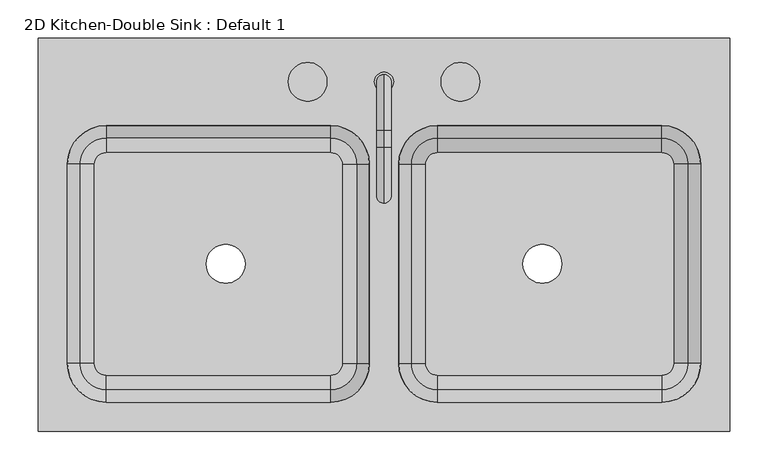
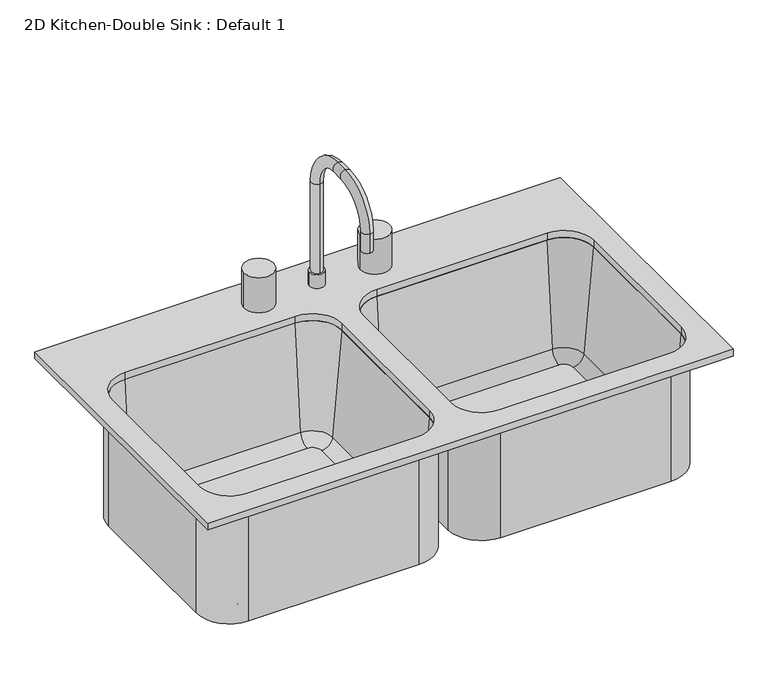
"""IFC4 building model written with IfcOpenShell, lengths in millimetres: flow terminal geometry, 2D Kitchen-Double Sink : Default 1."""

from ifc_helpers import new_model, si_unit, point, frame, frame_2d, origin, place, context, project, spatial, polyline, circle_curve, ellipse_curve, trimmed, segment, composite_curve, outline, extrude, source, transform, mapped, element, save
from ifc_brep_helpers import plane_surface, cylinder_surface, revolved_surface, advanced_brep


def flow_terminal_2d_kitchen_double_sink_default_1_ef919826(model_context):
    return source(origin(), model_context, "Body", "SolidModel", [
        advanced_brep(
        [(379.1142342, 109.9088193, 555.625), (85.5392406, 109.9088193, 555.625), (70.2508224, 94.6204011, 555.625), (70.2508224, -166.1295989, 555.625), (85.5392406, -181.4180171, 555.625), (379.1142406, -181.4180171, 555.625), (394.4026588, -166.1295989, 555.625), (394.4026588, 94.6204011, 555.625), (197.4017406, -35.7545989, 555.625), (248.2017406, -35.7545989, 555.625), (28.3892406, 94.6204011, 546.1), (85.5392406, 151.7704011, 546.1), (379.1142406, 151.7704011, 546.1), (436.2642406, 94.6204011, 546.1), (436.2642406, -166.1295989, 546.1), (379.1142406, -223.2795989, 546.1), (85.5392406, -223.2795989, 546.1), (28.3892406, -166.1295989, 546.1), (197.4017406, -35.7545989, 546.1), (248.2017406, -35.7545989, 546.1), (34.7392406, 94.6204011, 762.0), (85.5392406, 145.4204011, 762.0), (85.5392406, 151.7704011, 762.0), (28.3892406, 94.6204011, 762.0), (51.2733134, 94.6204011, 573.0146831), (85.5392406, 128.8863283, 573.0146831), (28.3892406, -166.1295989, 762.0), (34.7392406, -166.1295989, 762.0), (51.2733134, -166.1295989, 573.0146831), (85.5392406, -223.2795989, 762.0), (85.5392406, -216.9295989, 762.0), (85.5392406, -200.3955261, 573.0146831), (379.1142406, -223.2795989, 762.0), (379.1142406, -216.9295989, 762.0), (379.1142406, -200.3955261, 573.0146831), (436.2642406, -166.1295989, 762.0), (429.9142406, -166.1295989, 762.0), (413.3801678, -166.1295989, 573.0146831), (436.2642406, 94.6204011, 762.0), (429.9142406, 94.6204011, 762.0), (413.3801678, 94.6204011, 573.0146831), (379.1142406, 151.7704011, 762.0), (379.1142406, 145.4204011, 762.0), (379.1142406, 128.8863283, 573.0146831)],
        [
            (0, 1),
            (1, 2, circle_curve(frame((85.5392406, 94.6204011, 555.625), z_axis=(0.0, 0.0, 1.0), x_axis=(0.0, 1.0, 0.0)), 15.2884182)),
            (2, 3),
            (3, 4, circle_curve(frame((85.5392406, -166.1295989, 555.625), z_axis=(0.0, 0.0, 1.0), x_axis=(-1.0, 0.0, 0.0)), 15.2884182)),
            (4, 5),
            (5, 6, circle_curve(frame((379.1142406, -166.1295989, 555.625), z_axis=(0.0, 0.0, 1.0), x_axis=(0.0, -1.0, 0.0)), 15.2884182)),
            (6, 7),
            (7, 0, circle_curve(frame((379.1142406, 94.6204011, 555.625), z_axis=(0.0, 0.0, 1.0), x_axis=(1.0, 0.0, 0.0)), 15.2884182)),
            (8, 9, circle_curve(frame((222.8017406, -35.7545989, 555.625), z_axis=(0.0, 0.0, -1.0), x_axis=(1.0, 0.0, 0.0)), 25.4)),
            (9, 8, circle_curve(frame((222.8017406, -35.7545989, 555.625), z_axis=(0.0, 0.0, -1.0), x_axis=(1.0, 0.0, 0.0)), 25.4)),
            (10, 11, circle_curve(frame((85.5392406, 94.6204011, 546.1), z_axis=(0.0, 0.0, -1.0), x_axis=(0.0, 1.0, 0.0)), 57.15)),
            (11, 12),
            (12, 13, circle_curve(frame((379.1142406, 94.6204011, 546.1), z_axis=(0.0, 0.0, -1.0), x_axis=(1.0, 0.0, 0.0)), 57.15)),
            (13, 14),
            (14, 15, circle_curve(frame((379.1142406, -166.1295989, 546.1), z_axis=(0.0, 0.0, -1.0), x_axis=(0.0, -1.0, 0.0)), 57.15)),
            (15, 16),
            (16, 17, circle_curve(frame((85.5392406, -166.1295989, 546.1), z_axis=(0.0, 0.0, -1.0), x_axis=(-1.0, 0.0, 0.0)), 57.15)),
            (17, 10),
            (18, 19, circle_curve(frame((222.8017406, -35.7545989, 546.1), z_axis=(0.0, 0.0, 1.0), x_axis=(1.0, 0.0, 0.0)), 25.4)),
            (19, 18, circle_curve(frame((222.8017406, -35.7545989, 546.1), z_axis=(0.0, 0.0, 1.0), x_axis=(1.0, 0.0, 0.0)), 25.4)),
            (8, 18),
            (19, 9),
            (20, 21, circle_curve(frame((85.5392406, 94.6204011, 762.0), z_axis=(0.0, 0.0, -1.0), x_axis=(0.0, 1.0, 0.0)), 50.8)),
            (21, 22),
            (22, 23, circle_curve(frame((85.5392406, 94.6204011, 762.0), z_axis=(0.0, 0.0, 1.0), x_axis=(0.0, 1.0, 0.0)), 57.15)),
            (23, 20),
            (20, 24),
            (24, 25, circle_curve(frame((85.5392406, 94.6204011, 573.0146831), z_axis=(0.0, 0.0, -1.0), x_axis=(0.0, 1.0, 0.0)), 34.2659272)),
            (25, 21),
            (24, 2, circle_curve(frame((70.2508224, 94.6204011, 574.675), z_axis=(0.0, -1.0, 0.0), x_axis=(1.0, 0.0, 0.0)), 19.05)),
            (1, 25, circle_curve(frame((85.5392406, 109.9088193, 574.675), z_axis=(1.0, 0.0, 0.0), x_axis=(0.0, -1.0, 0.0)), 19.05)),
            (22, 11),
            (10, 23),
            (23, 26),
            (26, 27),
            (27, 20),
            (27, 28),
            (28, 24),
            (28, 3, circle_curve(frame((70.2508224, -166.1295989, 574.675), z_axis=(0.0, -1.0, 0.0), x_axis=(1.0, 0.0, 0.0)), 19.05)),
            (17, 26),
            (26, 29, circle_curve(frame((85.5392406, -166.1295989, 762.0), z_axis=(0.0, 0.0, 1.0), x_axis=(-1.0, 0.0, 0.0)), 57.15)),
            (29, 30),
            (30, 27, circle_curve(frame((85.5392406, -166.1295989, 762.0), z_axis=(0.0, 0.0, -1.0), x_axis=(-1.0, 0.0, 0.0)), 50.8)),
            (30, 31),
            (31, 28, circle_curve(frame((85.5392406, -166.1295989, 573.0146831), z_axis=(0.0, 0.0, -1.0), x_axis=(-1.0, 0.0, 0.0)), 34.2659272)),
            (31, 4, circle_curve(frame((85.5392406, -181.4180171, 574.675), z_axis=(1.0, 0.0, 0.0), x_axis=(0.0, 1.0, 0.0)), 19.05)),
            (16, 29),
            (29, 32),
            (32, 33),
            (33, 30),
            (33, 34),
            (34, 31),
            (34, 5, circle_curve(frame((379.1142406, -181.4180171, 574.675), z_axis=(1.0, 0.0, 0.0), x_axis=(0.0, 1.0, 0.0)), 19.05)),
            (15, 32),
            (32, 35, circle_curve(frame((379.1142406, -166.1295989, 762.0), z_axis=(0.0, 0.0, 1.0), x_axis=(0.0, -1.0, 0.0)), 57.15)),
            (35, 36),
            (36, 33, circle_curve(frame((379.1142406, -166.1295989, 762.0), z_axis=(0.0, 0.0, -1.0), x_axis=(0.0, -1.0, 0.0)), 50.8)),
            (36, 37),
            (37, 34, circle_curve(frame((379.1142406, -166.1295989, 573.0146831), z_axis=(0.0, 0.0, -1.0), x_axis=(0.0, -1.0, 0.0)), 34.2659272)),
            (37, 6, circle_curve(frame((394.4026588, -166.1295989, 574.675), z_axis=(0.0, 1.0, 0.0), x_axis=(-1.0, 0.0, 0.0)), 19.05)),
            (14, 35),
            (35, 38),
            (38, 39),
            (39, 36),
            (39, 40),
            (40, 37),
            (40, 7, circle_curve(frame((394.4026588, 94.6204011, 574.675), z_axis=(0.0, 1.0, 0.0), x_axis=(-1.0, 0.0, 0.0)), 19.05)),
            (13, 38),
            (38, 41, circle_curve(frame((379.1142406, 94.6204011, 762.0), z_axis=(0.0, 0.0, 1.0), x_axis=(1.0, 0.0, 0.0)), 57.15)),
            (41, 42),
            (42, 39, circle_curve(frame((379.1142406, 94.6204011, 762.0), z_axis=(0.0, 0.0, -1.0), x_axis=(1.0, 0.0, 0.0)), 50.8)),
            (42, 43),
            (43, 40, circle_curve(frame((379.1142406, 94.6204011, 573.0146831), z_axis=(0.0, 0.0, -1.0), x_axis=(1.0, 0.0, 0.0)), 34.2659272)),
            (43, 0, circle_curve(frame((379.1142406, 109.9088193, 574.675), z_axis=(-1.0, 0.0, 0.0), x_axis=(0.0, -1.0, 0.0)), 19.05)),
            (12, 41),
            (21, 42),
            (41, 22),
            (25, 43),
        ],
        [
            plane_surface(frame((85.5392406, 109.9088193, 555.625), z_axis=(0.0, 0.0, 1.0), x_axis=(-1.0, 0.0, 0.0))),
            plane_surface(frame((85.5392406, 109.9088193, 546.1), z_axis=(0.0, 0.0, -1.0), x_axis=(1.0, 0.0, 0.0))),
            revolved_surface(polyline([(248.2017406, -35.7545989, 546.1), (248.2017406, -35.7545989, 555.625)]), (222.8017406, -35.7545989, 0.0), (0.0, 0.0, -1.0)),
            plane_surface(frame((85.5392406, 94.6204011, 762.0), z_axis=(0.0, 0.0, 1.0), x_axis=(0.0, 1.0, 0.0))),
            revolved_surface(polyline([(85.5392406, 145.4204011, 762.0), (85.5392406, 128.8863283, 573.0146831)]), (85.5392406, 94.6204011, 0.0), (0.0, 0.0, 1.0)),
            revolved_surface(trimmed(ellipse_curve(frame((85.5392406, 109.9088193, 574.675), z_axis=(-1.0, 0.0, 0.0), x_axis=(0.0, -1.0, 0.0)), 19.05, 19.05), [point((85.5392406, 128.8863283, 573.0146831))], [point((85.5392406, 109.9088193, 555.625))], True, "CARTESIAN"), (85.5392406, 94.6204011, 0.0), (0.0, 0.0, 1.0)),
            cylinder_surface(frame((85.5392406, 94.6204011, 0.0), z_axis=(0.0, 0.0, 1.0), x_axis=(0.0, 1.0, 0.0)), 57.15),
            plane_surface(frame((28.3892406, 94.6204011, 762.0), z_axis=(0.0, 0.0, 1.0), x_axis=(0.0, -1.0, 0.0))),
            plane_surface(frame((34.7392406, 94.6204011, 762.0), z_axis=(0.996194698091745, 0.0, 0.08715574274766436), x_axis=(0.0, -1.0, 0.0))),
            revolved_surface(polyline([(89.3008224, -166.12959890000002, 574.675), (89.3008224, 94.6204011, 574.675)]), (70.2508224, 94.6204011, 574.675), (0.0, -1.0, 0.0)),
            plane_surface(frame((28.3892406, 94.6204011, 546.1), z_axis=(-1.0, 0.0, 0.0), x_axis=(0.0, -1.0, 0.0))),
            plane_surface(frame((85.5392406, -166.1295989, 762.0), z_axis=(0.0, 0.0, 1.0), x_axis=(-1.0, 0.0, 0.0))),
            revolved_surface(polyline([(34.7392406, -166.1295989, 762.0), (51.2733134, -166.1295989, 573.0146831)]), (85.5392406, -166.1295989, 0.0), (0.0, 0.0, 1.0)),
            revolved_surface(trimmed(ellipse_curve(frame((70.2508224, -166.1295989, 574.675), z_axis=(0.0, -1.0, 0.0), x_axis=(1.0, 0.0, 0.0)), 19.05, 19.05), [point((51.2733134, -166.1295989, 573.0146831))], [point((70.2508224, -166.1295989, 555.625))], True, "CARTESIAN"), (85.5392406, -166.1295989, 0.0), (0.0, 0.0, 1.0)),
            cylinder_surface(frame((85.5392406, -166.1295989, 0.0), z_axis=(0.0, 0.0, 1.0), x_axis=(-1.0, 0.0, 0.0)), 57.15),
            plane_surface(frame((85.5392406, -223.2795989, 762.0), z_axis=(0.0, 0.0, 1.0), x_axis=(1.0, 0.0, 0.0))),
            plane_surface(frame((85.5392406, -216.9295989, 762.0), z_axis=(0.0, 0.996194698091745, 0.08715574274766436), x_axis=(1.0, 0.0, 0.0))),
            revolved_surface(polyline([(379.1142406, -162.36801709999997, 574.675), (85.5392406, -162.36801709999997, 574.675)]), (85.5392406, -181.4180171, 574.675), (1.0, 0.0, 0.0)),
            plane_surface(frame((85.5392406, -223.2795989, 546.1), z_axis=(0.0, -1.0, 0.0), x_axis=(1.0, 0.0, 0.0))),
            plane_surface(frame((379.1142406, -166.1295989, 762.0), z_axis=(0.0, 0.0, 1.0), x_axis=(0.0, -1.0, 0.0))),
            revolved_surface(polyline([(379.1142406, -216.9295989, 762.0), (379.1142406, -200.3955261, 573.0146831)]), (379.1142406, -166.1295989, 0.0), (0.0, 0.0, 1.0)),
            revolved_surface(trimmed(ellipse_curve(frame((379.1142406, -181.4180171, 574.675), z_axis=(1.0, 0.0, 0.0), x_axis=(0.0, 1.0, 0.0)), 19.05, 19.05), [point((379.1142406, -200.3955261, 573.0146831))], [point((379.1142406, -181.4180171, 555.625))], True, "CARTESIAN"), (379.1142406, -166.1295989, 0.0), (0.0, 0.0, 1.0)),
            cylinder_surface(frame((379.1142406, -166.1295989, 0.0), z_axis=(0.0, 0.0, 1.0), x_axis=(0.0, -1.0, 0.0)), 57.15),
            plane_surface(frame((436.2642406, -166.1295989, 762.0), z_axis=(0.0, 0.0, 1.0), x_axis=(0.0, 1.0, 0.0))),
            plane_surface(frame((429.9142406, -166.1295989, 762.0), z_axis=(-0.996194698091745, 0.0, 0.08715574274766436), x_axis=(0.0, 1.0, 0.0))),
            revolved_surface(polyline([(375.3526588, 94.62040110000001, 574.675), (375.3526588, -166.1295989, 574.675)]), (394.4026588, -166.1295989, 574.675), (0.0, 1.0, 0.0)),
            plane_surface(frame((436.2642406, -166.1295989, 546.1), z_axis=(1.0, 0.0, 0.0), x_axis=(0.0, 1.0, 0.0))),
            plane_surface(frame((379.1142406, 94.6204011, 762.0), z_axis=(0.0, 0.0, 1.0), x_axis=(1.0, 0.0, 0.0))),
            revolved_surface(polyline([(429.9142406, 94.6204011, 762.0), (413.3801678, 94.6204011, 573.0146831)]), (379.1142406, 94.6204011, 0.0), (0.0, 0.0, 1.0)),
            revolved_surface(trimmed(ellipse_curve(frame((394.4026588, 94.6204011, 574.675), z_axis=(0.0, 1.0, 0.0), x_axis=(-1.0, 0.0, 0.0)), 19.05, 19.05), [point((413.3801678, 94.6204011, 573.0146831))], [point((394.4026588, 94.6204011, 555.625))], True, "CARTESIAN"), (379.1142406, 94.6204011, 0.0), (0.0, 0.0, 1.0)),
            cylinder_surface(frame((379.1142406, 94.6204011, 0.0), z_axis=(0.0, 0.0, 1.0), x_axis=(1.0, 0.0, 0.0)), 57.15),
            plane_surface(frame((379.1142406, 151.7704011, 762.0), z_axis=(0.0, 0.0, 1.0), x_axis=(-1.0, 0.0, 0.0))),
            plane_surface(frame((379.1142406, 145.4204011, 762.0), z_axis=(0.0, -0.996194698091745, 0.08715574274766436), x_axis=(-1.0, 0.0, 0.0))),
            revolved_surface(polyline([(85.53924059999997, 90.85881930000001, 574.675), (379.1142406, 90.85881930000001, 574.675)]), (379.1142406, 109.9088193, 574.675), (-1.0, 0.0, 0.0)),
            plane_surface(frame((379.1142406, 151.7704011, 546.1), z_axis=(0.0, 1.0, 0.0), x_axis=(-1.0, 0.0, 0.0))),
        ],
        [
            (0, [[1, 2, 3, 4, 5, 6, 7, 8], [9, 10]]),
            (1, [[11, 12, 13, 14, 15, 16, 17, 18], [19, 20]]),
            (2, [[-9, 21, -20, 22]]),
            (2, [[-10, -22, -19, -21]]),
            (3, [[23, 24, 25, 26]]),
            (4, [[-23, 27, 28, 29]]),
            (5, [[-28, 30, -2, 31]]),
            (6, [[-25, 32, -11, 33]]),
            (7, [[-26, 34, 35, 36]]),
            (8, [[-27, -36, 37, 38]]),
            (9, [[-30, -38, 39, -3]]),
            (10, [[-33, -18, 40, -34]]),
            (11, [[-35, 41, 42, 43]]),
            (12, [[-37, -43, 44, 45]]),
            (13, [[-39, -45, 46, -4]]),
            (14, [[-40, -17, 47, -41]]),
            (15, [[-42, 48, 49, 50]]),
            (16, [[-44, -50, 51, 52]]),
            (17, [[-46, -52, 53, -5]]),
            (18, [[-47, -16, 54, -48]]),
            (19, [[-49, 55, 56, 57]]),
            (20, [[-51, -57, 58, 59]]),
            (21, [[-53, -59, 60, -6]]),
            (22, [[-54, -15, 61, -55]]),
            (23, [[-56, 62, 63, 64]]),
            (24, [[-58, -64, 65, 66]]),
            (25, [[-60, -66, 67, -7]]),
            (26, [[-61, -14, 68, -62]]),
            (27, [[-63, 69, 70, 71]]),
            (28, [[-65, -71, 72, 73]]),
            (29, [[-67, -73, 74, -8]]),
            (30, [[-68, -13, 75, -69]]),
            (31, [[-24, 76, -70, 77]]),
            (32, [[-29, 78, -72, -76]]),
            (33, [[-31, -1, -74, -78]]),
            (34, [[-32, -77, -75, -12]]),
        ],
    ),
        advanced_brep(
        [(-38.8723412, 94.6204011, 555.625), (-54.1607594, 109.9088193, 555.625), (-347.7357594, 109.9088193, 555.625), (-363.0241776, 94.6204011, 555.625), (-363.0241776, -166.1295989, 555.625), (-347.7357594, -181.4180171, 555.625), (-54.1607594, -181.4180171, 555.625), (-38.8723412, -166.1295989, 555.625), (-216.8232594, -35.7545989, 555.625), (-166.0232594, -35.7545989, 555.625), (-404.8857594, 94.6204011, 546.1), (-347.7357594, 151.7704011, 546.1), (-54.1607594, 151.7704011, 546.1), (2.9892406, 94.6204011, 546.1), (2.9892406, -166.1295989, 546.1), (-54.1607594, -223.2795989, 546.1), (-347.7357594, -223.2795989, 546.1), (-404.8857594, -166.1295989, 546.1), (-216.8232594, -35.7545989, 546.1), (-166.0232594, -35.7545989, 546.1), (-54.1607594, 151.7704011, 762.0), (2.9892406, 94.6204011, 762.0), (-19.8948322, 94.6204011, 573.0146831), (-54.1607594, 128.8863283, 573.0146831), (-3.3607594, 94.6204011, 762.0), (-54.1607594, 145.4204011, 762.0), (2.9892406, -166.1295989, 762.0), (-19.8948322, -166.1295989, 573.0146831), (-3.3607594, -166.1295989, 762.0), (-54.1607594, -223.2795989, 762.0), (-54.1607594, -200.3955261, 573.0146831), (-54.1607594, -216.9295989, 762.0), (-347.7357594, -223.2795989, 762.0), (-347.7357594, -200.3955261, 573.0146831), (-347.7357594, -216.9295989, 762.0), (-404.8857594, -166.1295989, 762.0), (-382.0016866, -166.1295989, 573.0146831), (-398.5357594, -166.1295989, 762.0), (-404.8857594, 94.6204011, 762.0), (-382.0016866, 94.6204011, 573.0146831), (-398.5357594, 94.6204011, 762.0), (-347.7357594, 151.7704011, 762.0), (-347.7357594, 128.8863283, 573.0146831), (-347.7357594, 145.4204011, 762.0)],
        [
            (0, 1, circle_curve(frame((-54.1607594, 94.6204011, 555.625), z_axis=(0.0, 0.0, 1.0), x_axis=(0.0, 1.0, 0.0)), 15.2884182)),
            (1, 2),
            (2, 3, circle_curve(frame((-347.7357594, 94.6204011, 555.625), z_axis=(0.0, 0.0, 1.0), x_axis=(-1.0, 0.0, 0.0)), 15.2884182)),
            (3, 4),
            (4, 5, circle_curve(frame((-347.7357594, -166.1295989, 555.625), z_axis=(0.0, 0.0, 1.0), x_axis=(0.0, -1.0, 0.0)), 15.2884182)),
            (5, 6),
            (6, 7, circle_curve(frame((-54.1607594, -166.1295989, 555.625), z_axis=(0.0, 0.0, 1.0), x_axis=(1.0, 0.0, 0.0)), 15.2884182)),
            (7, 0),
            (8, 9, circle_curve(frame((-191.4232594, -35.7545989, 555.625), z_axis=(0.0, 0.0, -1.0), x_axis=(1.0, 0.0, 0.0)), 25.4)),
            (9, 8, circle_curve(frame((-191.4232594, -35.7545989, 555.625), z_axis=(0.0, 0.0, -1.0), x_axis=(1.0, 0.0, 0.0)), 25.4)),
            (10, 11, circle_curve(frame((-347.7357594, 94.6204011, 546.1), z_axis=(0.0, 0.0, -1.0), x_axis=(-1.0, 0.0, 0.0)), 57.15)),
            (11, 12),
            (12, 13, circle_curve(frame((-54.1607594, 94.6204011, 546.1), z_axis=(0.0, 0.0, -1.0), x_axis=(0.0, 1.0, 0.0)), 57.15)),
            (13, 14),
            (14, 15, circle_curve(frame((-54.1607594, -166.1295989, 546.1), z_axis=(0.0, 0.0, -1.0), x_axis=(1.0, 0.0, 0.0)), 57.15)),
            (15, 16),
            (16, 17, circle_curve(frame((-347.7357594, -166.1295989, 546.1), z_axis=(0.0, 0.0, -1.0), x_axis=(0.0, -1.0, 0.0)), 57.15)),
            (17, 10),
            (18, 19, circle_curve(frame((-191.4232594, -35.7545989, 546.1), z_axis=(0.0, 0.0, 1.0), x_axis=(1.0, 0.0, 0.0)), 25.4)),
            (19, 18, circle_curve(frame((-191.4232594, -35.7545989, 546.1), z_axis=(0.0, 0.0, 1.0), x_axis=(1.0, 0.0, 0.0)), 25.4)),
            (8, 18),
            (19, 9),
            (12, 20),
            (20, 21, circle_curve(frame((-54.1607594, 94.6204011, 762.0), z_axis=(0.0, 0.0, -1.0), x_axis=(0.0, 1.0, 0.0)), 57.15)),
            (21, 13),
            (0, 22, circle_curve(frame((-38.8723412, 94.6204011, 574.675), z_axis=(0.0, -1.0, 0.0), x_axis=(1.0, 0.0, 0.0)), 19.05)),
            (22, 23, circle_curve(frame((-54.1607594, 94.6204011, 573.0146831), z_axis=(0.0, 0.0, 1.0), x_axis=(0.0, 1.0, 0.0)), 34.2659272)),
            (23, 1, circle_curve(frame((-54.1607594, 109.9088193, 574.675), z_axis=(-1.0, 0.0, 0.0), x_axis=(0.0, 1.0, 0.0)), 19.05)),
            (22, 24),
            (24, 25, circle_curve(frame((-54.1607594, 94.6204011, 762.0), z_axis=(0.0, 0.0, 1.0), x_axis=(0.0, 1.0, 0.0)), 50.8)),
            (25, 23),
            (20, 25),
            (24, 21),
            (21, 26),
            (26, 14),
            (7, 27, circle_curve(frame((-38.8723412, -166.1295989, 574.675), z_axis=(0.0, -1.0, 0.0), x_axis=(1.0, 0.0, 0.0)), 19.05)),
            (27, 22),
            (27, 28),
            (28, 24),
            (28, 26),
            (26, 29, circle_curve(frame((-54.1607594, -166.1295989, 762.0), z_axis=(0.0, 0.0, -1.0), x_axis=(1.0, 0.0, 0.0)), 57.15)),
            (29, 15),
            (6, 30, circle_curve(frame((-54.1607594, -181.4180171, 574.675), z_axis=(-1.0, 0.0, 0.0), x_axis=(0.0, -1.0, 0.0)), 19.05)),
            (30, 27, circle_curve(frame((-54.1607594, -166.1295989, 573.0146831), z_axis=(0.0, 0.0, 1.0), x_axis=(1.0, 0.0, 0.0)), 34.2659272)),
            (30, 31),
            (31, 28, circle_curve(frame((-54.1607594, -166.1295989, 762.0), z_axis=(0.0, 0.0, 1.0), x_axis=(1.0, 0.0, 0.0)), 50.8)),
            (31, 29),
            (29, 32),
            (32, 16),
            (5, 33, circle_curve(frame((-347.7357594, -181.4180171, 574.675), z_axis=(-1.0, 0.0, 0.0), x_axis=(0.0, -1.0, 0.0)), 19.05)),
            (33, 30),
            (33, 34),
            (34, 31),
            (34, 32),
            (32, 35, circle_curve(frame((-347.7357594, -166.1295989, 762.0), z_axis=(0.0, 0.0, -1.0), x_axis=(0.0, -1.0, 0.0)), 57.15)),
            (35, 17),
            (4, 36, circle_curve(frame((-363.0241776, -166.1295989, 574.675), z_axis=(0.0, 1.0, 0.0), x_axis=(-1.0, 0.0, 0.0)), 19.05)),
            (36, 33, circle_curve(frame((-347.7357594, -166.1295989, 573.0146831), z_axis=(0.0, 0.0, 1.0), x_axis=(0.0, -1.0, 0.0)), 34.2659272)),
            (36, 37),
            (37, 34, circle_curve(frame((-347.7357594, -166.1295989, 762.0), z_axis=(0.0, 0.0, 1.0), x_axis=(0.0, -1.0, 0.0)), 50.8)),
            (37, 35),
            (35, 38),
            (38, 10),
            (3, 39, circle_curve(frame((-363.0241776, 94.6204011, 574.675), z_axis=(0.0, 1.0, 0.0), x_axis=(-1.0, 0.0, 0.0)), 19.05)),
            (39, 36),
            (39, 40),
            (40, 37),
            (40, 38),
            (38, 41, circle_curve(frame((-347.7357594, 94.6204011, 762.0), z_axis=(0.0, 0.0, -1.0), x_axis=(-1.0, 0.0, 0.0)), 57.15)),
            (41, 11),
            (2, 42, circle_curve(frame((-347.7357594, 109.9088193, 574.675), z_axis=(1.0, 0.0, 0.0), x_axis=(0.0, 1.0, 0.0)), 19.05)),
            (42, 39, circle_curve(frame((-347.7357594, 94.6204011, 573.0146831), z_axis=(0.0, 0.0, 1.0), x_axis=(-1.0, 0.0, 0.0)), 34.2659272)),
            (42, 43),
            (43, 40, circle_curve(frame((-347.7357594, 94.6204011, 762.0), z_axis=(0.0, 0.0, 1.0), x_axis=(-1.0, 0.0, 0.0)), 50.8)),
            (43, 41),
            (41, 20),
            (23, 42),
            (25, 43),
        ],
        [
            plane_surface(frame((-347.7357594, 107.3204011, 555.625), z_axis=(0.0, 0.0, 1.0), x_axis=(-1.0, 0.0, 0.0))),
            plane_surface(frame((-347.7357594, 107.3204011, 546.1), z_axis=(0.0, 0.0, -1.0), x_axis=(1.0, 0.0, 0.0))),
            revolved_surface(polyline([(-166.0232594, -35.7545989, 546.1), (-166.0232594, -35.7545989, 555.625)]), (-191.4232594, -35.7545989, 0.0), (0.0, 0.0, -1.0)),
            cylinder_surface(frame((-54.1607594, 94.6204011, 0.0), z_axis=(0.0, 0.0, -1.0), x_axis=(0.0, 1.0, 0.0)), 57.15),
            revolved_surface(trimmed(ellipse_curve(frame((-54.1607594, 109.9088193, 574.675), z_axis=(1.0, 0.0, 0.0), x_axis=(0.0, 1.0, 0.0)), 19.05, 19.05), [point((-54.1607594, 109.9088193, 555.625))], [point((-54.1607594, 128.8863283, 573.0146831))], True, "CARTESIAN"), (-54.1607594, 94.6204011, 0.0), (0.0, 0.0, -1.0)),
            revolved_surface(polyline([(-54.1607594, 128.8863283, 573.0146831), (-54.1607594, 145.4204011, 762.0)]), (-54.1607594, 94.6204011, 0.0), (0.0, 0.0, -1.0)),
            plane_surface(frame((-54.1607594, 94.6204011, 762.0), z_axis=(0.0, 0.0, 1.0), x_axis=(0.0, 1.0, 0.0))),
            plane_surface(frame((2.9892406, 94.6204011, 762.0), z_axis=(1.0, 0.0, 0.0), x_axis=(0.0, -1.0, 0.0))),
            revolved_surface(polyline([(-19.8223412, -166.12959890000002, 574.675), (-19.8223412, 94.6204011, 574.675)]), (-38.8723412, 94.6204011, 574.675), (0.0, -1.0, 0.0)),
            plane_surface(frame((-19.8948322, 94.6204011, 573.0146831), z_axis=(-0.996194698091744, 0.0, 0.08715574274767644), x_axis=(0.0, -1.0, 0.0))),
            plane_surface(frame((-3.3607594, 94.6204011, 762.0), z_axis=(0.0, 0.0, 1.0), x_axis=(0.0, -1.0, 0.0))),
            cylinder_surface(frame((-54.1607594, -166.1295989, 0.0), z_axis=(0.0, 0.0, -1.0), x_axis=(1.0, 0.0, 0.0)), 57.15),
            revolved_surface(trimmed(ellipse_curve(frame((-38.8723412, -166.1295989, 574.675), z_axis=(0.0, -1.0, 0.0), x_axis=(1.0, 0.0, 0.0)), 19.05, 19.05), [point((-38.8723412, -166.1295989, 555.625))], [point((-19.8948322, -166.1295989, 573.0146831))], True, "CARTESIAN"), (-54.1607594, -166.1295989, 0.0), (0.0, 0.0, -1.0)),
            revolved_surface(polyline([(-19.8948322, -166.1295989, 573.0146831), (-3.3607594, -166.1295989, 762.0)]), (-54.1607594, -166.1295989, 0.0), (0.0, 0.0, -1.0)),
            plane_surface(frame((-54.1607594, -166.1295989, 762.0), z_axis=(0.0, 0.0, 1.0), x_axis=(1.0, 0.0, 0.0))),
            plane_surface(frame((-54.1607594, -223.2795989, 762.0), z_axis=(0.0, -1.0, 0.0), x_axis=(-1.0, 0.0, 0.0))),
            revolved_surface(polyline([(-347.7357594, -200.4680171, 574.675), (-54.1607594, -200.4680171, 574.675)]), (-54.1607594, -181.4180171, 574.675), (-1.0, 0.0, 0.0)),
            plane_surface(frame((-54.1607594, -200.3955261, 573.0146831), z_axis=(0.0, 0.996194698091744, 0.08715574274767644), x_axis=(-1.0, 0.0, 0.0))),
            plane_surface(frame((-54.1607594, -216.9295989, 762.0), z_axis=(0.0, 0.0, 1.0), x_axis=(-1.0, 0.0, 0.0))),
            cylinder_surface(frame((-347.7357594, -166.1295989, 0.0), z_axis=(0.0, 0.0, -1.0), x_axis=(0.0, -1.0, 0.0)), 57.15),
            revolved_surface(trimmed(ellipse_curve(frame((-347.7357594, -181.4180171, 574.675), z_axis=(-1.0, 0.0, 0.0), x_axis=(0.0, -1.0, 0.0)), 19.05, 19.05), [point((-347.7357594, -181.4180171, 555.625))], [point((-347.7357594, -200.3955261, 573.0146831))], True, "CARTESIAN"), (-347.7357594, -166.1295989, 0.0), (0.0, 0.0, -1.0)),
            revolved_surface(polyline([(-347.7357594, -200.3955261, 573.0146831), (-347.7357594, -216.9295989, 762.0)]), (-347.7357594, -166.1295989, 0.0), (0.0, 0.0, -1.0)),
            plane_surface(frame((-347.7357594, -166.1295989, 762.0), z_axis=(0.0, 0.0, 1.0), x_axis=(0.0, -1.0, 0.0))),
            plane_surface(frame((-404.8857594, -166.1295989, 762.0), z_axis=(-1.0, 0.0, 0.0), x_axis=(0.0, 1.0, 0.0))),
            revolved_surface(polyline([(-382.0741776, 94.62040110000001, 574.675), (-382.0741776, -166.1295989, 574.675)]), (-363.0241776, -166.1295989, 574.675), (0.0, 1.0, 0.0)),
            plane_surface(frame((-382.0016866, -166.1295989, 573.0146831), z_axis=(0.996194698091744, 0.0, 0.08715574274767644), x_axis=(0.0, 1.0, 0.0))),
            plane_surface(frame((-398.5357594, -166.1295989, 762.0), z_axis=(0.0, 0.0, 1.0), x_axis=(0.0, 1.0, 0.0))),
            cylinder_surface(frame((-347.7357594, 94.6204011, 0.0), z_axis=(0.0, 0.0, -1.0), x_axis=(-1.0, 0.0, 0.0)), 57.15),
            revolved_surface(trimmed(ellipse_curve(frame((-363.0241776, 94.6204011, 574.675), z_axis=(0.0, 1.0, 0.0), x_axis=(-1.0, 0.0, 0.0)), 19.05, 19.05), [point((-363.0241776, 94.6204011, 555.625))], [point((-382.0016866, 94.6204011, 573.0146831))], True, "CARTESIAN"), (-347.7357594, 94.6204011, 0.0), (0.0, 0.0, -1.0)),
            revolved_surface(polyline([(-382.0016866, 94.6204011, 573.0146831), (-398.5357594, 94.6204011, 762.0)]), (-347.7357594, 94.6204011, 0.0), (0.0, 0.0, -1.0)),
            plane_surface(frame((-347.7357594, 94.6204011, 762.0), z_axis=(0.0, 0.0, 1.0), x_axis=(-1.0, 0.0, 0.0))),
            plane_surface(frame((-347.7357594, 151.7704011, 762.0), z_axis=(0.0, 1.0, 0.0), x_axis=(1.0, 0.0, 0.0))),
            revolved_surface(polyline([(-54.16075940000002, 128.95881930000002, 574.675), (-347.7357594, 128.95881930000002, 574.675)]), (-347.7357594, 109.9088193, 574.675), (1.0, 0.0, 0.0)),
            plane_surface(frame((-347.7357594, 128.8863283, 573.0146831), z_axis=(0.0, -0.996194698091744, 0.08715574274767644), x_axis=(1.0, 0.0, 0.0))),
            plane_surface(frame((-347.7357594, 145.4204011, 762.0), z_axis=(0.0, 0.0, 1.0), x_axis=(1.0, 0.0, 0.0))),
        ],
        [
            (0, [[1, 2, 3, 4, 5, 6, 7, 8], [9, 10]]),
            (1, [[11, 12, 13, 14, 15, 16, 17, 18], [19, 20]]),
            (2, [[-9, 21, -20, 22]]),
            (2, [[-10, -22, -19, -21]]),
            (3, [[-13, 23, 24, 25]]),
            (4, [[-1, 26, 27, 28]]),
            (5, [[-27, 29, 30, 31]]),
            (6, [[-24, 32, -30, 33]]),
            (7, [[-25, 34, 35, -14]]),
            (8, [[-26, -8, 36, 37]]),
            (9, [[-29, -37, 38, 39]]),
            (10, [[-33, -39, 40, -34]]),
            (11, [[-35, 41, 42, -15]]),
            (12, [[-36, -7, 43, 44]]),
            (13, [[-38, -44, 45, 46]]),
            (14, [[-40, -46, 47, -41]]),
            (15, [[-42, 48, 49, -16]]),
            (16, [[-43, -6, 50, 51]]),
            (17, [[-45, -51, 52, 53]]),
            (18, [[-47, -53, 54, -48]]),
            (19, [[-49, 55, 56, -17]]),
            (20, [[-50, -5, 57, 58]]),
            (21, [[-52, -58, 59, 60]]),
            (22, [[-54, -60, 61, -55]]),
            (23, [[-56, 62, 63, -18]]),
            (24, [[-57, -4, 64, 65]]),
            (25, [[-59, -65, 66, 67]]),
            (26, [[-61, -67, 68, -62]]),
            (27, [[-63, 69, 70, -11]]),
            (28, [[-64, -3, 71, 72]]),
            (29, [[-66, -72, 73, 74]]),
            (30, [[-68, -74, 75, -69]]),
            (31, [[-23, -12, -70, 76]]),
            (32, [[-28, 77, -71, -2]]),
            (33, [[-31, 78, -73, -77]]),
            (34, [[-32, -76, -75, -78]]),
        ],
    ),
        advanced_brep(
        [(2.9892406, 202.5704011, 774.7), (28.3892406, 202.5704011, 774.7), (15.6892406, 212.0954011, 962.025), (15.6892406, 193.0454011, 962.025), (15.6892406, 193.0454011, 800.1), (15.6892406, 212.0954011, 800.1), (15.6892406, 139.0704011, 1035.05), (15.6892406, 139.0704011, 1016.0), (15.6892406, 116.8454011, 1035.05), (15.6892406, 116.8454011, 1016.0), (15.6892406, 43.8204011, 962.025), (15.6892406, 62.8704011, 962.025), (15.6892406, 43.8204011, 927.1), (15.6892406, 62.8704011, 927.1), (2.9892406, 202.5704011, 800.1), (28.3892406, 202.5704011, 800.1)],
        [
            (0, 1, circle_curve(frame((15.6892406, 202.5704011, 774.7), z_axis=(0.0, 0.0, -1.0), x_axis=(1.0, 0.0, 0.0)), 12.7)),
            (1, 0, circle_curve(frame((15.6892406, 202.5704011, 774.7), z_axis=(0.0, 0.0, -1.0), x_axis=(1.0, 0.0, 0.0)), 12.7)),
            (2, 3, circle_curve(frame((15.6892406, 202.5704011, 962.025), z_axis=(0.0, 0.0, -1.0), x_axis=(0.0, -1.0, 0.0)), 9.525)),
            (3, 4),
            (4, 5, circle_curve(frame((15.6892406, 202.5704011, 800.1), z_axis=(0.0, 0.0, 1.0), x_axis=(0.0, -1.0, 0.0)), 9.525)),
            (5, 2),
            (3, 2, circle_curve(frame((15.6892406, 202.5704011, 962.025), z_axis=(0.0, 0.0, -1.0), x_axis=(0.0, -1.0, 0.0)), 9.525)),
            (5, 4, circle_curve(frame((15.6892406, 202.5704011, 800.1), z_axis=(0.0, 0.0, 1.0), x_axis=(0.0, -1.0, 0.0)), 9.525)),
            (2, 6, circle_curve(frame((15.6892406, 139.0704011, 962.025), z_axis=(1.0, 0.0, 0.0), x_axis=(0.0, 1.0, 0.0)), 73.025)),
            (6, 7, circle_curve(frame((15.6892406, 139.0704011, 1025.525), z_axis=(0.0, 1.0, 0.0), x_axis=(0.0, 0.0, -1.0)), 9.525)),
            (7, 3, circle_curve(frame((15.6892406, 139.0704011, 962.025), z_axis=(-1.0, 0.0, 0.0), x_axis=(0.0, 1.0, 0.0)), 53.975)),
            (7, 6, circle_curve(frame((15.6892406, 139.0704011, 1025.525), z_axis=(0.0, 1.0, 0.0), x_axis=(0.0, 0.0, -1.0)), 9.525)),
            (6, 8),
            (8, 9, circle_curve(frame((15.6892406, 116.8454011, 1025.525), z_axis=(0.0, 1.0, 0.0), x_axis=(0.0, 0.0, -1.0)), 9.525)),
            (9, 7),
            (9, 8, circle_curve(frame((15.6892406, 116.8454011, 1025.525), z_axis=(0.0, 1.0, 0.0), x_axis=(0.0, 0.0, -1.0)), 9.525)),
            (8, 10, circle_curve(frame((15.6892406, 116.8454011, 962.025), z_axis=(1.0, 0.0, 0.0), x_axis=(0.0, 0.0, 1.0)), 73.025)),
            (10, 11, circle_curve(frame((15.6892406, 53.3454011, 962.025), z_axis=(0.0, 0.0, 1.0), x_axis=(0.0, 1.0, 0.0)), 9.525)),
            (11, 9, circle_curve(frame((15.6892406, 116.8454011, 962.025), z_axis=(-1.0, 0.0, 0.0), x_axis=(0.0, 0.0, 1.0)), 53.975)),
            (11, 10, circle_curve(frame((15.6892406, 53.3454011, 962.025), z_axis=(0.0, 0.0, 1.0), x_axis=(0.0, 1.0, 0.0)), 9.525)),
            (12, 13, circle_curve(frame((15.6892406, 53.3454011, 927.1), z_axis=(0.0, 0.0, -1.0), x_axis=(0.0, 1.0, 0.0)), 9.525)),
            (13, 12, circle_curve(frame((15.6892406, 53.3454011, 927.1), z_axis=(0.0, 0.0, -1.0), x_axis=(0.0, 1.0, 0.0)), 9.525)),
            (10, 12),
            (13, 11),
            (14, 15, circle_curve(frame((15.6892406, 202.5704011, 800.1), z_axis=(0.0, 0.0, 1.0), x_axis=(1.0, 0.0, 0.0)), 12.7)),
            (15, 14, circle_curve(frame((15.6892406, 202.5704011, 800.1), z_axis=(0.0, 0.0, 1.0), x_axis=(1.0, 0.0, 0.0)), 12.7)),
            (14, 0),
            (1, 15),
        ],
        [
            plane_surface(frame((15.6892406, 193.0454011, 774.7), z_axis=(0.0, 0.0, -1.0), x_axis=(1.0, 0.0, 0.0))),
            cylinder_surface(frame((15.6892406, 202.5704011, 774.7), z_axis=(0.0, 0.0, -1.0), x_axis=(0.0, -1.0, 0.0)), 9.525),
            revolved_surface(trimmed(ellipse_curve(frame((15.6892406, 202.5704011, 962.025), z_axis=(0.0, 0.0, -1.0), x_axis=(0.0, -1.0, 0.0)), 9.525, 9.525), [point((15.6892406, 212.0954011, 962.025))], [point((15.6892406, 193.0454011, 962.025))], True, "CARTESIAN"), (15.6892406, 139.0704011, 962.025), (1.0, 0.0, 0.0)),
            revolved_surface(trimmed(ellipse_curve(frame((15.6892406, 202.5704011, 962.025), z_axis=(0.0, 0.0, -1.0), x_axis=(0.0, -1.0, 0.0)), 9.525, 9.525), [point((15.6892406, 193.0454011, 962.025))], [point((15.6892406, 212.0954011, 962.025))], True, "CARTESIAN"), (15.6892406, 139.0704011, 962.025), (1.0, 0.0, 0.0)),
            cylinder_surface(frame((15.6892406, 139.0704011, 1025.525), z_axis=(0.0, 1.0, 0.0), x_axis=(0.0, 0.0, -1.0)), 9.525),
            revolved_surface(trimmed(ellipse_curve(frame((15.6892406, 116.8454011, 1025.525), z_axis=(0.0, 1.0, 0.0), x_axis=(0.0, 0.0, -1.0)), 9.525, 9.525), [point((15.6892406, 116.8454011, 1035.05))], [point((15.6892406, 116.8454011, 1016.0))], True, "CARTESIAN"), (15.6892406, 116.8454011, 962.025), (1.0, 0.0, 0.0)),
            revolved_surface(trimmed(ellipse_curve(frame((15.6892406, 116.8454011, 1025.525), z_axis=(0.0, 1.0, 0.0), x_axis=(0.0, 0.0, -1.0)), 9.525, 9.525), [point((15.6892406, 116.8454011, 1016.0))], [point((15.6892406, 116.8454011, 1035.05))], True, "CARTESIAN"), (15.6892406, 116.8454011, 962.025), (1.0, 0.0, 0.0)),
            plane_surface(frame((15.6892406, 43.8204011, 927.1), z_axis=(0.0, 0.0, -1.0), x_axis=(-1.0, 0.0, 0.0))),
            cylinder_surface(frame((15.6892406, 53.3454011, 962.025), z_axis=(0.0, 0.0, 1.0), x_axis=(0.0, 1.0, 0.0)), 9.525),
            plane_surface(frame((28.3892406, 202.5704011, 800.1), z_axis=(0.0, 0.0, 1.0), x_axis=(0.0, 1.0, 0.0))),
            cylinder_surface(frame((15.6892406, 202.5704011, 774.7), z_axis=(0.0, 0.0, 1.0), x_axis=(1.0, 0.0, 0.0)), 12.7),
        ],
        [
            (0, [[1, 2]]),
            (1, [[3, 4, 5, 6]]),
            (1, [[7, -6, 8, -4]]),
            (2, [[-3, 9, 10, 11]]),
            (3, [[-7, -11, 12, -9]]),
            (4, [[-10, 13, 14, 15]]),
            (4, [[-12, -15, 16, -13]]),
            (5, [[-14, 17, 18, 19]]),
            (6, [[-16, -19, 20, -17]]),
            (7, [[21, 22]]),
            (8, [[-18, 23, -22, 24]]),
            (8, [[-20, -24, -21, -23]]),
            (9, [[25, 26], [-5, -8]]),
            (10, [[-25, 27, -2, 28]]),
            (10, [[-26, -28, -1, -27]]),
        ],
    ),
        extrude(outline(composite_curve([segment(trimmed(circle_curve(frame_2d((-84.3107594, 202.5704011)), 25.4), [point((-109.7107594, 202.5704011))], [point((-58.9107594, 202.5704011))], False, "CARTESIAN"), True, "CONTINUOUS"), segment(trimmed(circle_curve(frame_2d((-84.3107594, 202.5704011)), 25.4), [point((-58.9107594, 202.5704011))], [point((-109.7107594, 202.5704011))], False, "CARTESIAN"), True, "CONTINUOUS")], self_intersect=False)), frame((0.0, 0.0, 774.7), z_axis=(0.0, 0.0, 1.0), x_axis=(1.0, 0.0, 0.0)), (0.0, 0.0, 1.0), 63.5),
        extrude(outline(composite_curve([segment(trimmed(circle_curve(frame_2d((115.6892406, 202.5704011)), 25.4), [point((90.2892406, 202.5704011))], [point((141.0892406, 202.5704011))], False, "CARTESIAN"), True, "CONTINUOUS"), segment(trimmed(circle_curve(frame_2d((115.6892406, 202.5704011)), 25.4), [point((141.0892406, 202.5704011))], [point((90.2892406, 202.5704011))], False, "CARTESIAN"), True, "CONTINUOUS")], self_intersect=False)), frame((0.0, 0.0, 774.7), z_axis=(0.0, 0.0, 1.0), x_axis=(1.0, 0.0, 0.0)), (0.0, 0.0, 1.0), 63.5),
        extrude(outline(polyline([(468.0142406, 259.7204011), (468.0142406, -255.0295989), (-436.6357594, -255.0295989), (-436.6357594, 259.7204011), (468.0142406, 259.7204011)]), holes=[composite_curve([segment(polyline([(-54.1607594, 145.4204011), (-347.7357594, 145.4204011)]), True, "CONTINUOUS"), segment(trimmed(circle_curve(frame_2d((-347.7357594, 94.6204011)), 50.8), [point((-347.7357594, 145.4204011))], [point((-398.5357594, 94.6204011))], True, "CARTESIAN"), True, "CONTINUOUS"), segment(polyline([(-398.5357594, 94.6204011), (-398.5357594, -166.1295989)]), True, "CONTINUOUS"), segment(trimmed(circle_curve(frame_2d((-347.7357594, -166.1295989)), 50.8), [point((-398.5357594, -166.1295989))], [point((-347.7357594, -216.9295989))], True, "CARTESIAN"), True, "CONTINUOUS"), segment(polyline([(-347.7357594, -216.9295989), (-54.1607594, -216.9295989)]), True, "CONTINUOUS"), segment(trimmed(circle_curve(frame_2d((-54.1607594, -166.1295989)), 50.8), [point((-54.1607594, -216.9295989))], [point((-3.3607594, -166.1295989))], True, "CARTESIAN"), True, "CONTINUOUS"), segment(polyline([(-3.3607594, -166.1295989), (-3.3607594, 94.6204011)]), True, "CONTINUOUS"), segment(trimmed(circle_curve(frame_2d((-54.1607594, 94.6204011)), 50.8), [point((-3.3607594, 94.6204011))], [point((-54.1607594, 145.4204011))], True, "CARTESIAN"), True, "CONTINUOUS")], self_intersect=False), composite_curve([segment(polyline([(85.5392406, -216.9295989), (379.1142406, -216.9295989)]), True, "CONTINUOUS"), segment(trimmed(circle_curve(frame_2d((379.1142406, -166.1295989)), 50.8), [point((379.1142406, -216.9295989))], [point((429.9142406, -166.1295989))], True, "CARTESIAN"), True, "CONTINUOUS"), segment(polyline([(429.9142406, -166.1295989), (429.9142406, 94.6204011)]), True, "CONTINUOUS"), segment(trimmed(circle_curve(frame_2d((379.1142406, 94.6204011)), 50.8), [point((429.9142406, 94.6204011))], [point((379.1142406, 145.4204011))], True, "CARTESIAN"), True, "CONTINUOUS"), segment(polyline([(379.1142406, 145.4204011), (85.5392406, 145.4204011)]), True, "CONTINUOUS"), segment(trimmed(circle_curve(frame_2d((85.5392406, 94.6204011)), 50.8), [point((85.5392406, 145.4204011))], [point((34.7392406, 94.6204011))], True, "CARTESIAN"), True, "CONTINUOUS"), segment(polyline([(34.7392406, 94.6204011), (34.7392406, -166.1295989)]), True, "CONTINUOUS"), segment(trimmed(circle_curve(frame_2d((85.5392406, -166.1295989)), 50.8), [point((34.7392406, -166.1295989))], [point((85.5392406, -216.9295989))], True, "CARTESIAN"), True, "CONTINUOUS")], self_intersect=False)]), frame((0.0, 0.0, 762.0), z_axis=(0.0, 0.0, 1.0), x_axis=(1.0, 0.0, 0.0)), (0.0, 0.0, 1.0), 12.7),
    ])


if __name__ == "__main__":
    model = new_model("IFC4")
    model_context = context("Model", 3, world=origin())
    ifc_project = project(units=[si_unit("LENGTHUNIT", "METRE", prefix="MILLI")], contexts=[model_context])
    site = spatial("IfcSite", under=ifc_project)
    building = spatial("IfcBuilding", under=site)
    placement = place(None, origin())
    flow_terminal_2d_kitchen_double_sink_default_1_shape = flow_terminal_2d_kitchen_double_sink_default_1_ef919826(model_context)
    element("IfcFlowTerminal", 1, ObjectType="2D Kitchen-Double Sink : Default 1", at=placement, inside=building, context=model_context, shape_type="MappedRepresentation", body=[
        mapped(flow_terminal_2d_kitchen_double_sink_default_1_shape, transform((0.0, 0.0, 0.0), x_axis=(1.0, 0.0, 0.0), y_axis=(0.0, 1.0, 0.0), z_axis=(0.0, 0.0, 1.0))),
    ])
    save(model, "model.ifc")
